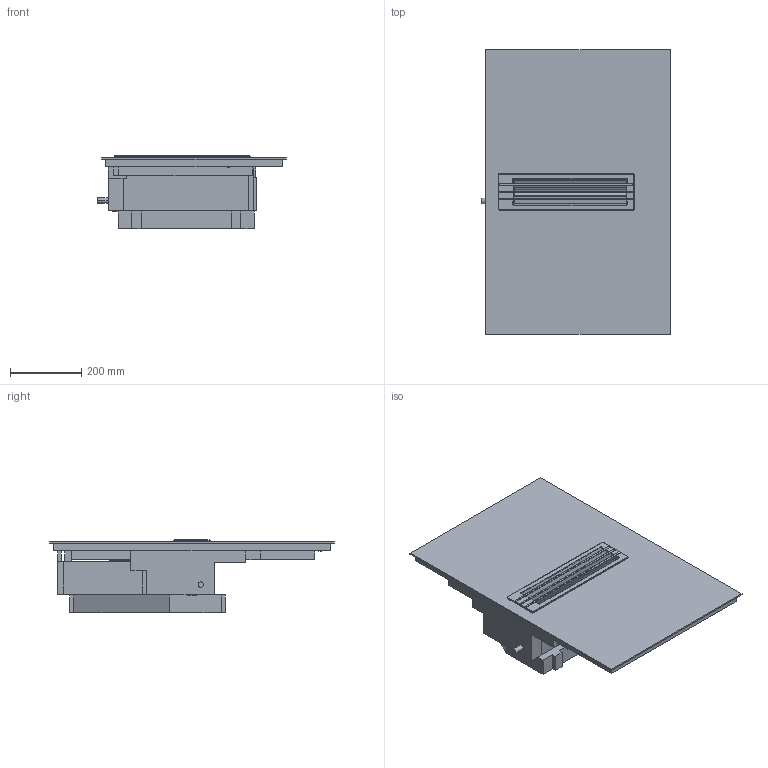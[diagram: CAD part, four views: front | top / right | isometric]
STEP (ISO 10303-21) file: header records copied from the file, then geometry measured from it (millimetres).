
FILE_DESCRIPTION(('CATIA V5 STEP','CAx-IF Rec.Pracs.--- Model Styling and Organization---1.2---2011-12-15'),'2;1');
FILE_NAME('J:\01_INTERN\03_Planungsdaten\01_Auftrag\02_Aufträge\00_ALLE\V170088_Paket07_S03\CAD\Simp_KMDA7774_FL.stp','2017-09-04T05:34:11+00:00',('none'),('none'),'Version 5-6 Release 2012','CATIA V5 STEP AP214','none');
FILE_SCHEMA(('AUTOMOTIVE_DESIGN { 1 0 10303 214 1 1 1 1 }'));
Length unit declared in the file: millimetre
Products named in the file (1): Simplifizierung_KMDA7774_FR
Bounding box: 531.2 x 800 x 205.5 mm (x, y, z)
Volume: 33668416.7 mm3; surface area: 2970322.1 mm2
Topology: 9 solids, 9 shells, 304 faces, 813 edges, 535 vertices
Faces by surface type: plane 241, cylinder 51, bspline 12
Entity records: 9898 total; most frequent: CARTESIAN_POINT 2589, ORIENTED_EDGE 1626, DIRECTION 1228, EDGE_CURVE 813, VECTOR 664, LINE 664, VERTEX_POINT 535, EDGE_LOOP 324
